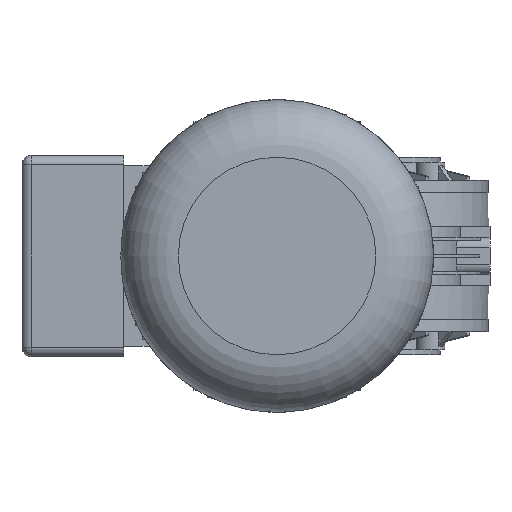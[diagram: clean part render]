
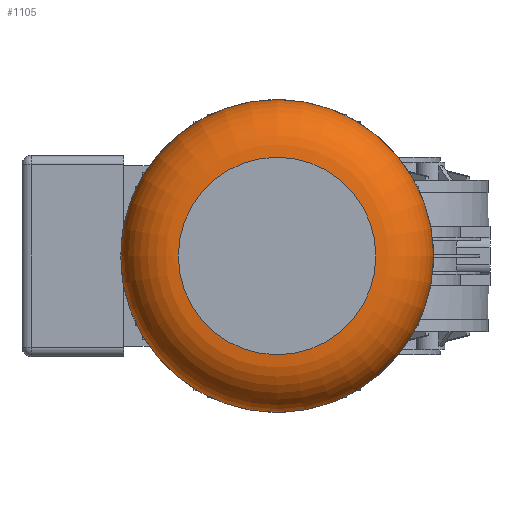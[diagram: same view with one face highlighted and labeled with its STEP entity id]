
A CAD part, left-side view. The second image highlights one B-rep face of the part: STEP entity #1105.
In plain terms, the highlighted toroidal (fillet/blend) face has major radius 51.5 mm and minor radius 30 mm.
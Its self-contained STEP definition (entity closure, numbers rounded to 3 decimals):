
#1105 = ADVANCED_FACE( '', ( #3079, #3080 ), #3081, .T. );
#3079 = FACE_OUTER_BOUND( '', #6039, .T. );
#3080 = FACE_OUTER_BOUND( '', #6040, .T. );
#3081 = TOROIDAL_SURFACE( '', #6041, 51.5, 30. );
#6039 = EDGE_LOOP( '', ( #9378 ) );
#6040 = EDGE_LOOP( '', ( #9379 ) );
#6041 = AXIS2_PLACEMENT_3D( '', #9380, #9381, #9382 );
#9378 = ORIENTED_EDGE( '', *, *, #17744, .F. );
#9379 = ORIENTED_EDGE( '', *, *, #17745, .F. );
#9380 = CARTESIAN_POINT( '', ( -302.5, 50., 0. ) );
#9381 = DIRECTION( '', ( -1., 0., 0. ) );
#9382 = DIRECTION( '', ( 0., 1., 0. ) );
#17744 = EDGE_CURVE( '', #21401, #21401, #21402, .T. );
#17745 = EDGE_CURVE( '', #21403, #21403, #21404, .F. );
#21401 = VERTEX_POINT( '', #26761 );
#21402 = CIRCLE( '', #26762, 51.5 );
#21403 = VERTEX_POINT( '', #26763 );
#21404 = CIRCLE( '', #26764, 81.5 );
#26761 = CARTESIAN_POINT( '', ( -332.5, 101.5, 0. ) );
#26762 = AXIS2_PLACEMENT_3D( '', #34027, #34028, #34029 );
#26763 = CARTESIAN_POINT( '', ( -302.5, 131.5, 0. ) );
#26764 = AXIS2_PLACEMENT_3D( '', #34030, #34031, #34032 );
#34027 = CARTESIAN_POINT( '', ( -332.5, 50., 0. ) );
#34028 = DIRECTION( '', ( -1., 0., 0. ) );
#34029 = DIRECTION( '', ( 0., 1., 0. ) );
#34030 = CARTESIAN_POINT( '', ( -302.5, 50., 0. ) );
#34031 = DIRECTION( '', ( -1., 0., 0. ) );
#34032 = DIRECTION( '', ( 0., 1., 0. ) );
